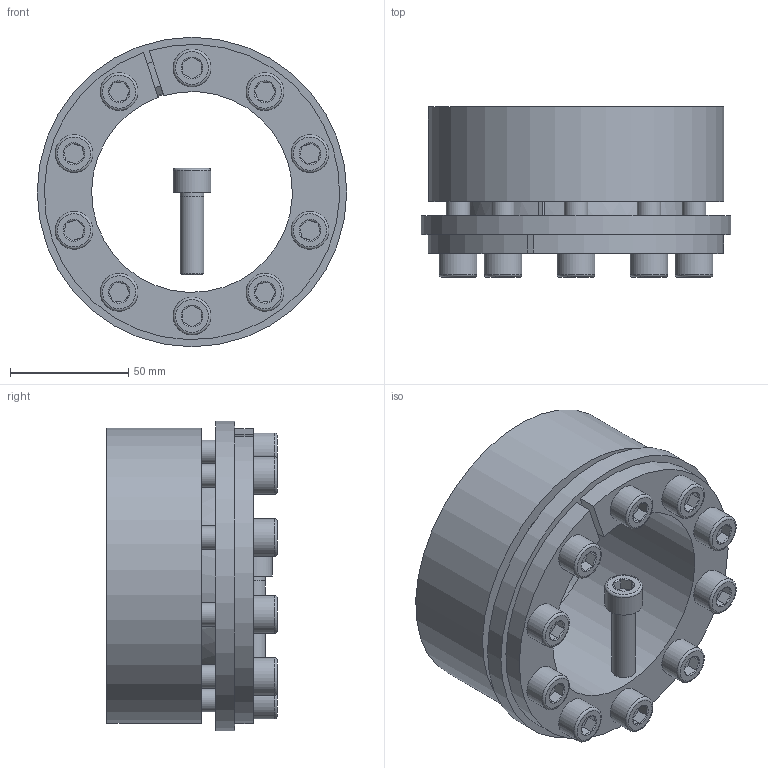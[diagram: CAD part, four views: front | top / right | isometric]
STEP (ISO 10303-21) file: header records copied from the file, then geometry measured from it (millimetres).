
FILE_DESCRIPTION( ( 'Unknown' ), '1' );
FILE_NAME( 'C:/Dokumente und Einstellungen/Sven/Desktop/homepage/cad - homepage/KBS71/KBS 71 - 85 x 125.stp', 'Unknown', ( 'Unknown' ), ( 'Unknown' ), 'XStep 1.0', 'Unknown', ' ' );
FILE_SCHEMA( ( 'automotive_design' ) );
Length unit declared in the file: millimetre
Products named in the file (3): Assem1; KBS 71 - 85 x 125; ISO EN DIN 4762 M10x35
Bounding box: 131 x 72 x 131 mm (x, y, z)
Volume: 727748.5 mm3; surface area: 189975.7 mm2
Topology: 13 solids, 13 shells, 363 faces, 781 edges, 466 vertices
Faces by surface type: plane 164, cylinder 92, cone 85, torus 22
Full cylindrical faces by diameter (mm): 9 x11, 10 x62, 16 x11, 131 x2
Entity records: 2358 total; most frequent: CARTESIAN_POINT 389, DIRECTION 384, ORIENTED_EDGE 292, AXIS2_PLACEMENT_3D 167, EDGE_CURVE 146, EDGE_LOOP 136, VERTEX_POINT 104, FACE_OUTER_BOUND 96
